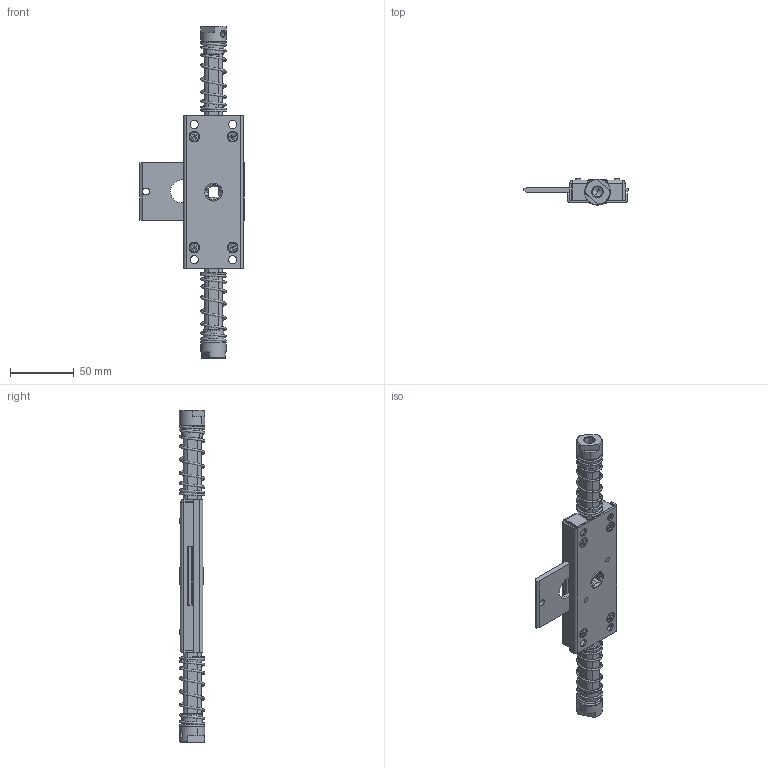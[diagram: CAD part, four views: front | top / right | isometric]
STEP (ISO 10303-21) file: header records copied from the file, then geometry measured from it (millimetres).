
FILE_DESCRIPTION (( 'STEP AP214' ), '1' );
FILE_NAME ('1B.ZW8.P - zamek wewnetrzny ZW.STEP', '2016-09-07T09:40:11', ( '' ), ( '' ), 'SwSTEP 2.0', 'SolidWorks 2015', '' );
FILE_SCHEMA (( 'AUTOMOTIVE_DESIGN' ));
Length unit declared in the file: millimetre
Products named in the file (18): 1B.ZW.002_A; 1B.ZW8.P - zamek wewnetrzny ZW; 1B.ZW.004_A; 5.SP.001_A; M4_M4 x 8; 1B.SAP.000.00.03_1B.SAP.000.00.03.D8; 1B.ZW.010_A; 1B.ZW.009_B; 1B.ZW.008_A; 1B.ZW.007_A; 1B.ZW.006_B; 1B.ZW.005_B.L; 1B.ZW.005.04_A; 1B.ZW.005.03_B; 1B.ZW.005.02_A; 1B.ZW.005.01_A; 1B.ZW.003_A; 1B.ZW.001_A
Assembly tree (26 placements, depth 3):
  1B.ZW8.P - zamek wewnetrzny ZW
    1B.ZW.002_A
    1B.ZW.001_A
    1B.ZW.003_A  x4
    1B.ZW.005_B.L  x2
      1B.ZW.005.01_A
      1B.ZW.005.02_A
      1B.ZW.005.03_B
      1B.ZW.005.04_A
    1B.ZW.006_B
    1B.ZW.007_A
    1B.ZW.008_A
    1B.ZW.009_B
    1B.ZW.010_A
    1B.SAP.000.00.03_1B.SAP.000.00.03.D8  x2
    M4_M4 x 8  x4
    5.SP.001_A  x2
    1B.ZW.004_A
Bounding box: 82 x 20.2 x 260.35 mm (x, y, z)
Volume: 85256.2 mm3; surface area: 73003.6 mm2
Topology: 28 solids, 28 shells, 713 faces, 1669 edges, 1023 vertices
Faces by surface type: plane 313, cylinder 222, cone 150, bspline 16, torus 12
Entity records: 23226 total; most frequent: CARTESIAN_POINT 11638, DIRECTION 2354, ORIENTED_EDGE 2134, EDGE_CURVE 1067, AXIS2_PLACEMENT_3D 873, VERTEX_POINT 665, LINE 608, VECTOR 608
